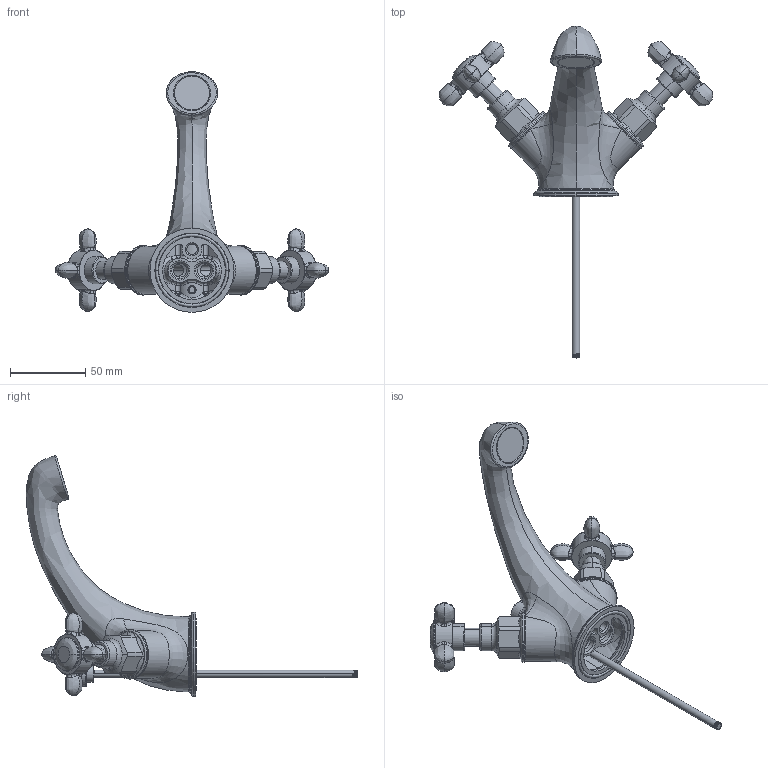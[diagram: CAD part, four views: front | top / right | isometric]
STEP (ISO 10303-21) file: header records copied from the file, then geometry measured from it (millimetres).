
FILE_DESCRIPTION(('FreeCAD Model'),'2;1');
FILE_NAME('Open CASCADE Shape Model','2025-05-28T18:34:28',('Author'),( ''),'Open CASCADE STEP processor 7.8','FreeCAD','Unknown');
FILE_SCHEMA(('AUTOMOTIVE_DESIGN { 1 0 10303 214 1 1 1 1 }'));
Length unit declared in the file: millimetre
Products named in the file (15): 1153003_ASM; 1153003-012_AF0; 6002102_AF0_ASM; 6001002-601_AF0_ASM; 6001002-603_AF0; 1153003-392_AF0; 1153003-162_AF0; 1153003-162_AF1; 1153003-113; 1153003-202_AF1; 1153003-203_AF1; 8027001-405; 8027001-403; 8027001-404; JQ-45X2
Assembly tree (15 placements, depth 4):
  1153003_ASM
    1153003-012_AF0
    6002102_AF0_ASM
      6001002-601_AF0_ASM
        6001002-603_AF0
    1153003-392_AF0
    1153003-162_AF0
    1153003-162_AF1
    1153003-113  x2
    1153003-202_AF1
    1153003-203_AF1
    8027001-405
      8027001-403
      8027001-404
    JQ-45X2
Bounding box: 182.17 x 220.98 x 160.31 mm (x, y, z)
Volume: 113880.7 mm3; surface area: 78952.1 mm2
Topology: 12 solids, 12 shells, 835 faces, 2055 edges, 1235 vertices
Faces by surface type: bspline 260, cylinder 207, plane 205, torus 86, cone 63, sphere 14
Entity records: 50183 total; most frequent: CARTESIAN_POINT 36245, ORIENTED_EDGE 3042, DIRECTION 2551, EDGE_CURVE 1521, AXIS2_PLACEMENT_3D 1100, VERTEX_POINT 917, FACE_BOUND 688, EDGE_LOOP 688
